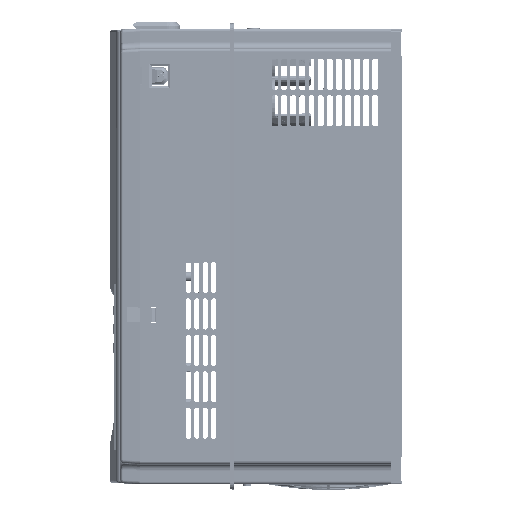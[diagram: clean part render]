
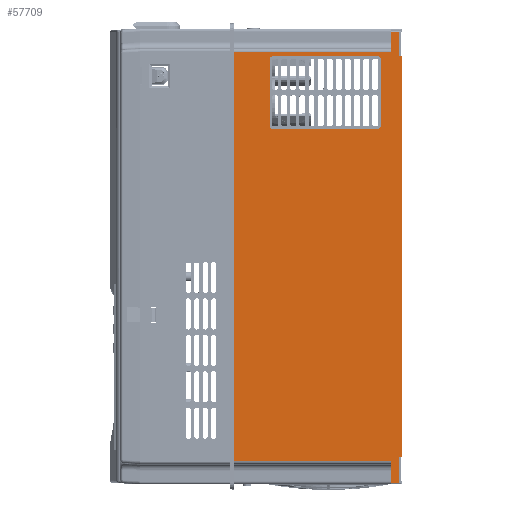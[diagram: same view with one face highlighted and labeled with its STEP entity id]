
A CAD part, left-side view. The second image highlights one B-rep face of the part: STEP entity #57709.
In plain terms, the highlighted planar face has unit normal (-1, 0, 0).
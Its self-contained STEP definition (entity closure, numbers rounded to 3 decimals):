
#3971=DIRECTION('',(0.,0.,1.));
#3972=VECTOR('',#3971,18.);
#3973=CARTESIAN_POINT('',(-105.25,-17.3,154.25));
#3974=LINE('',#3973,#3972);
#4096=DIRECTION('',(0.,0.,-1.));
#4097=VECTOR('',#4096,308.5);
#4098=CARTESIAN_POINT('',(-105.25,-19.8,154.25));
#4099=LINE('',#4098,#4097);
#4100=DIRECTION('',(0.,1.,0.));
#4101=VECTOR('',#4100,2.5);
#4102=CARTESIAN_POINT('',(-105.25,-19.8,-154.25));
#4103=LINE('',#4102,#4101);
#4104=DIRECTION('',(0.,0.,1.));
#4105=VECTOR('',#4104,314.5);
#4106=CARTESIAN_POINT('',(-105.25,109.9,-157.25));
#4107=LINE('',#4106,#4105);
#4108=DIRECTION('',(0.,0.,1.));
#4109=VECTOR('',#4108,0.099);
#4110=CARTESIAN_POINT('',(-105.25,88.7,-124.737));
#4111=LINE('',#4110,#4109);
#4112=DIRECTION('',(0.,1.,0.));
#4113=VECTOR('',#4112,81.5);
#4114=CARTESIAN_POINT('',(-105.25,-1.3,153.75));
#4115=LINE('',#4114,#4113);
#4116=CARTESIAN_POINT('',(-105.25,80.2,151.75));
#4117=DIRECTION('',(-1.,0.,0.));
#4118=DIRECTION('',(0.,0.,1.));
#4119=AXIS2_PLACEMENT_3D('',#4116,#4117,#4118);
#4121=DIRECTION('',(0.,0.,-1.));
#4122=VECTOR('',#4121,51.5);
#4123=CARTESIAN_POINT('',(-105.25,82.2,151.75));
#4124=LINE('',#4123,#4122);
#4125=CARTESIAN_POINT('',(-105.25,80.2,100.25));
#4126=DIRECTION('',(-1.,0.,0.));
#4127=DIRECTION('',(0.,1.,0.));
#4128=AXIS2_PLACEMENT_3D('',#4125,#4126,#4127);
#4130=DIRECTION('',(0.,-1.,0.));
#4131=VECTOR('',#4130,81.5);
#4132=CARTESIAN_POINT('',(-105.25,80.2,98.25));
#4133=LINE('',#4132,#4131);
#4134=CARTESIAN_POINT('',(-105.25,-1.3,100.25));
#4135=DIRECTION('',(-1.,0.,0.));
#4136=DIRECTION('',(0.,0.,-1.));
#4137=AXIS2_PLACEMENT_3D('',#4134,#4135,#4136);
#4139=DIRECTION('',(0.,0.,1.));
#4140=VECTOR('',#4139,51.5);
#4141=CARTESIAN_POINT('',(-105.25,-3.3,100.25));
#4142=LINE('',#4141,#4140);
#4143=CARTESIAN_POINT('',(-105.25,-1.3,151.75));
#4144=DIRECTION('',(-1.,0.,0.));
#4145=DIRECTION('',(0.,-1.,0.));
#4146=AXIS2_PLACEMENT_3D('',#4143,#4144,#4145);
#4152=DIRECTION('',(0.,1.,0.));
#4153=VECTOR('',#4152,121.2);
#4154=CARTESIAN_POINT('',(-105.25,-11.3,157.25));
#4155=LINE('',#4154,#4153);
#29815=DIRECTION('',(0.,0.,1.));
#29816=VECTOR('',#29815,20.);
#29817=CARTESIAN_POINT('',(-105.25,-17.3,-174.25));
#29818=LINE('',#29817,#29816);
#29896=DIRECTION('',(0.,-1.,0.));
#29897=VECTOR('',#29896,6.);
#29898=CARTESIAN_POINT('',(-105.25,-11.3,-174.25));
#29899=LINE('',#29898,#29897);
#29909=DIRECTION('',(0.,0.,-1.));
#29910=VECTOR('',#29909,17.);
#29911=CARTESIAN_POINT('',(-105.25,-11.3,-157.25));
#29912=LINE('',#29911,#29910);
#29954=DIRECTION('',(0.,-1.,0.));
#29955=VECTOR('',#29954,121.2);
#29956=CARTESIAN_POINT('',(-105.25,109.9,-157.25));
#29957=LINE('',#29956,#29955);
#30002=DIRECTION('',(0.,1.,0.));
#30003=VECTOR('',#30002,2.5);
#30004=CARTESIAN_POINT('',(-105.25,-19.8,154.25));
#30005=LINE('',#30004,#30003);
#42156=DIRECTION('',(0.,0.,-1.));
#42157=VECTOR('',#42156,15.);
#42158=CARTESIAN_POINT('',(-105.25,-11.3,172.25));
#42159=LINE('',#42158,#42157);
#42222=DIRECTION('',(0.,1.,0.));
#42223=VECTOR('',#42222,6.);
#42224=CARTESIAN_POINT('',(-105.25,-17.3,172.25));
#42225=LINE('',#42224,#42223);
#42274=DIRECTION('',(0.,1.,-0.013));
#42275=VECTOR('',#42274,0.075);
#42276=CARTESIAN_POINT('',(-105.25,88.7,-124.737));
#42277=LINE('',#42276,#42275);
#42282=DIRECTION('',(0.,-0.599,0.8));
#42283=VECTOR('',#42282,0.125);
#42284=CARTESIAN_POINT('',(-105.25,88.775,-124.738));
#42285=LINE('',#42284,#42283);
#44797=CARTESIAN_POINT('',(-105.25,-17.3,154.25));
#44798=CARTESIAN_POINT('',(-105.25,-17.3,172.25));
#44799=VERTEX_POINT('',#44797);
#44800=VERTEX_POINT('',#44798);
#44863=CARTESIAN_POINT('',(-105.25,-11.3,157.25));
#44864=CARTESIAN_POINT('',(-105.25,109.9,157.25));
#44865=VERTEX_POINT('',#44863);
#44866=VERTEX_POINT('',#44864);
#44867=CARTESIAN_POINT('',(-105.25,-11.3,172.25));
#44868=VERTEX_POINT('',#44867);
#44869=CARTESIAN_POINT('',(-105.25,-19.8,154.25));
#44870=VERTEX_POINT('',#44869);
#44871=CARTESIAN_POINT('',(-105.25,-19.8,-154.25));
#44872=VERTEX_POINT('',#44871);
#44873=CARTESIAN_POINT('',(-105.25,-17.3,-154.25));
#44874=VERTEX_POINT('',#44873);
#44875=CARTESIAN_POINT('',(-105.25,-17.3,-174.25));
#44876=VERTEX_POINT('',#44875);
#44877=CARTESIAN_POINT('',(-105.25,-11.3,-174.25));
#44878=VERTEX_POINT('',#44877);
#44879=CARTESIAN_POINT('',(-105.25,-11.3,-157.25));
#44880=VERTEX_POINT('',#44879);
#44881=CARTESIAN_POINT('',(-105.25,109.9,-157.25));
#44882=VERTEX_POINT('',#44881);
#44883=CARTESIAN_POINT('',(-105.25,88.7,-124.737));
#44884=CARTESIAN_POINT('',(-105.25,88.7,-124.637));
#44885=VERTEX_POINT('',#44883);
#44886=VERTEX_POINT('',#44884);
#44887=CARTESIAN_POINT('',(-105.25,88.775,-124.738));
#44888=VERTEX_POINT('',#44887);
#44889=CARTESIAN_POINT('',(-105.25,-1.3,153.75));
#44890=CARTESIAN_POINT('',(-105.25,80.2,153.75));
#44891=VERTEX_POINT('',#44889);
#44892=VERTEX_POINT('',#44890);
#44893=CARTESIAN_POINT('',(-105.25,82.2,151.75));
#44894=VERTEX_POINT('',#44893);
#44895=CARTESIAN_POINT('',(-105.25,82.2,100.25));
#44896=VERTEX_POINT('',#44895);
#44897=CARTESIAN_POINT('',(-105.25,80.2,98.25));
#44898=VERTEX_POINT('',#44897);
#44899=CARTESIAN_POINT('',(-105.25,-1.3,98.25));
#44900=VERTEX_POINT('',#44899);
#44901=CARTESIAN_POINT('',(-105.25,-3.3,100.25));
#44902=VERTEX_POINT('',#44901);
#44903=CARTESIAN_POINT('',(-105.25,-3.3,151.75));
#44904=VERTEX_POINT('',#44903);
#57653=CARTESIAN_POINT('',(-105.25,0.,-175.25));
#57654=DIRECTION('',(-1.,0.,0.));
#57655=DIRECTION('',(0.,0.,1.));
#57656=AXIS2_PLACEMENT_3D('',#57653,#57654,#57655);
#57657=PLANE('',#57656);
#57659=ORIENTED_EDGE('',*,*,#57658,.F.);
#57661=ORIENTED_EDGE('',*,*,#57660,.F.);
#57663=ORIENTED_EDGE('',*,*,#57662,.F.);
#57664=ORIENTED_EDGE('',*,*,#57556,.F.);
#57666=ORIENTED_EDGE('',*,*,#57665,.F.);
#57668=ORIENTED_EDGE('',*,*,#57667,.T.);
#57670=ORIENTED_EDGE('',*,*,#57669,.T.);
#57672=ORIENTED_EDGE('',*,*,#57671,.F.);
#57674=ORIENTED_EDGE('',*,*,#57673,.F.);
#57676=ORIENTED_EDGE('',*,*,#57675,.F.);
#57678=ORIENTED_EDGE('',*,*,#57677,.F.);
#57680=ORIENTED_EDGE('',*,*,#57679,.T.);
#57681=EDGE_LOOP('',(#57659,#57661,#57663,#57664,#57666,#57668,#57670,#57672,
#57674,#57676,#57678,#57680));
#57682=FACE_OUTER_BOUND('',#57681,.F.);
#57684=ORIENTED_EDGE('',*,*,#57683,.T.);
#57686=ORIENTED_EDGE('',*,*,#57685,.F.);
#57688=ORIENTED_EDGE('',*,*,#57687,.F.);
#57689=EDGE_LOOP('',(#57684,#57686,#57688));
#57690=FACE_BOUND('',#57689,.F.);
#57692=ORIENTED_EDGE('',*,*,#57691,.T.);
#57694=ORIENTED_EDGE('',*,*,#57693,.T.);
#57696=ORIENTED_EDGE('',*,*,#57695,.T.);
#57698=ORIENTED_EDGE('',*,*,#57697,.T.);
#57700=ORIENTED_EDGE('',*,*,#57699,.T.);
#57702=ORIENTED_EDGE('',*,*,#57701,.T.);
#57704=ORIENTED_EDGE('',*,*,#57703,.T.);
#57706=ORIENTED_EDGE('',*,*,#57705,.T.);
#57707=EDGE_LOOP('',(#57692,#57694,#57696,#57698,#57700,#57702,#57704,#57706));
#57708=FACE_BOUND('',#57707,.F.);
#57709=ADVANCED_FACE('',(#57682,#57690,#57708),#57657,.T.);
#4120=CIRCLE('',#4119,2.);
#4129=CIRCLE('',#4128,2.);
#4138=CIRCLE('',#4137,2.);
#4147=CIRCLE('',#4146,2.);
#57556=EDGE_CURVE('',#44799,#44800,#3974,.T.);
#57658=EDGE_CURVE('',#44865,#44866,#4155,.T.);
#57660=EDGE_CURVE('',#44868,#44865,#42159,.T.);
#57662=EDGE_CURVE('',#44800,#44868,#42225,.T.);
#57665=EDGE_CURVE('',#44870,#44799,#30005,.T.);
#57667=EDGE_CURVE('',#44870,#44872,#4099,.T.);
#57669=EDGE_CURVE('',#44872,#44874,#4103,.T.);
#57671=EDGE_CURVE('',#44876,#44874,#29818,.T.);
#57673=EDGE_CURVE('',#44878,#44876,#29899,.T.);
#57675=EDGE_CURVE('',#44880,#44878,#29912,.T.);
#57677=EDGE_CURVE('',#44882,#44880,#29957,.T.);
#57679=EDGE_CURVE('',#44882,#44866,#4107,.T.);
#57683=EDGE_CURVE('',#44885,#44886,#4111,.T.);
#57685=EDGE_CURVE('',#44888,#44886,#42285,.T.);
#57687=EDGE_CURVE('',#44885,#44888,#42277,.T.);
#57691=EDGE_CURVE('',#44891,#44892,#4115,.T.);
#57693=EDGE_CURVE('',#44892,#44894,#4120,.T.);
#57695=EDGE_CURVE('',#44894,#44896,#4124,.T.);
#57697=EDGE_CURVE('',#44896,#44898,#4129,.T.);
#57699=EDGE_CURVE('',#44898,#44900,#4133,.T.);
#57701=EDGE_CURVE('',#44900,#44902,#4138,.T.);
#57703=EDGE_CURVE('',#44902,#44904,#4142,.T.);
#57705=EDGE_CURVE('',#44904,#44891,#4147,.T.);
